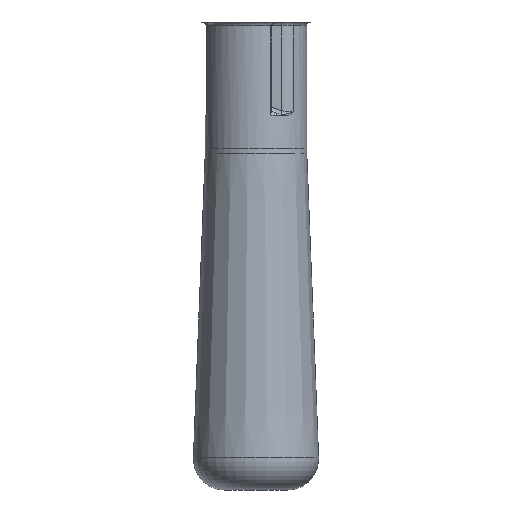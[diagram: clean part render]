
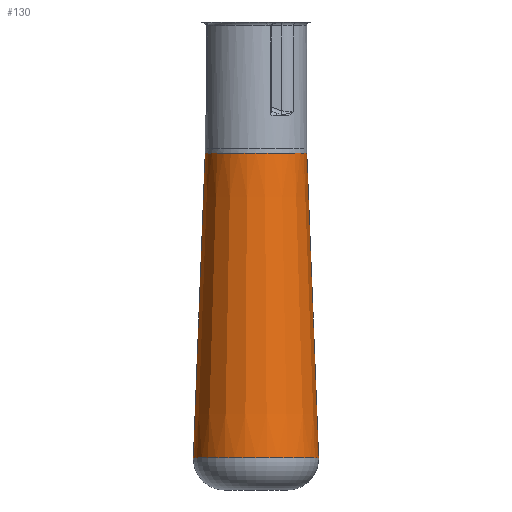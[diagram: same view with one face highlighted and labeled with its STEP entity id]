
A CAD part, left-side view. The second image highlights one B-rep face of the part: STEP entity #130.
In plain terms, the highlighted conical face has half-angle 2.224 degrees and reference radius 5.953 mm.
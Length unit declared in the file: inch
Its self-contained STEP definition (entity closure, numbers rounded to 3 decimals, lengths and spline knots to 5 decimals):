
#90=CARTESIAN_POINT('',(0.0,0.25087,-0.99515));
#91=VERTEX_POINT('',#90);
#92=CARTESIAN_POINT('',(0.,0.0,-0.99515));
#93=DIRECTION('',(0.0,0.0,-1.0));
#94=DIRECTION('',(0.0,-1.0,0.0));
#95=AXIS2_PLACEMENT_3D('',#92,#93,#94);
#96=CIRCLE('',#95,0.25087);
#97=EDGE_CURVE('',#91,#91,#96,.T.);
#111=CARTESIAN_POINT('',(0.0,0.0,-0.57031));
#112=DIRECTION('',(0.0,0.0,-1.0));
#113=DIRECTION('',(0.0,-1.0,0.0));
#114=AXIS2_PLACEMENT_3D('',#111,#112,#113);
#115=CONICAL_SURFACE('',#114,0.23438,2.224);
#116=CARTESIAN_POINT('',(0.,-0.2035,0.22468));
#117=VERTEX_POINT('',#116);
#118=CARTESIAN_POINT('',(0.,0.0,0.22468));
#119=DIRECTION('',(0.0,0.0,1.0));
#120=DIRECTION('',(0.0,1.0,0.0));
#121=AXIS2_PLACEMENT_3D('',#118,#119,#120);
#122=CIRCLE('',#121,0.2035);
#123=EDGE_CURVE('',#117,#117,#122,.T.);
#124=ORIENTED_EDGE('',*,*,#123,.F.);
#125=EDGE_LOOP('',(#124));
#126=FACE_OUTER_BOUND('',#125,.T.);
#127=ORIENTED_EDGE('',*,*,#97,.F.);
#128=EDGE_LOOP('',(#127));
#129=FACE_BOUND('',#128,.T.);
#130=ADVANCED_FACE('',(#126,#129),#115,.T.);
